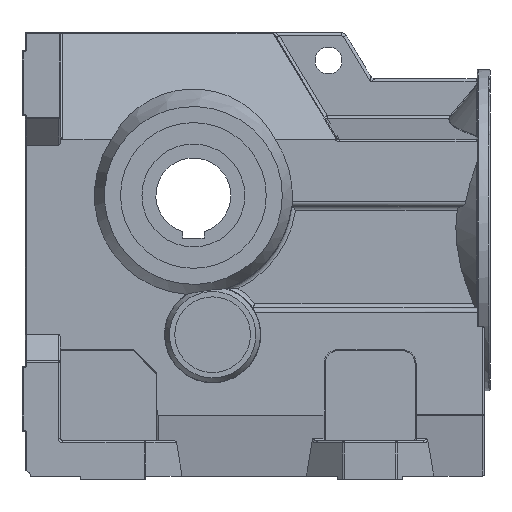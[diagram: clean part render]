
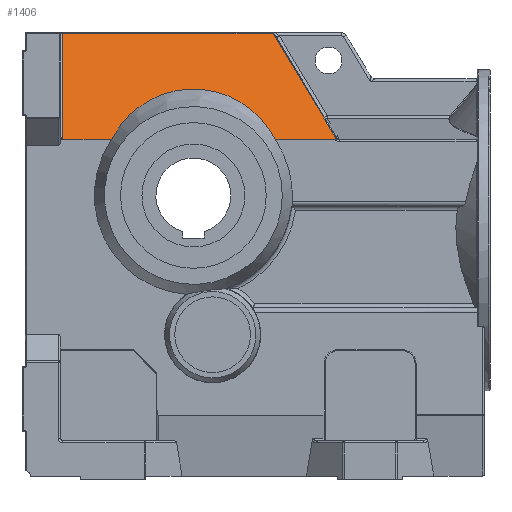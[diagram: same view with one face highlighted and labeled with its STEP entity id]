
A CAD part, front view. The second image highlights one B-rep face of the part: STEP entity #1406.
In plain terms, the highlighted planar face has unit normal (0, -0.928, 0.371).
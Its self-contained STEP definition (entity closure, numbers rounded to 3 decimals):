
#1188=CARTESIAN_POINT('',(77.488,-119.53,318.175));
#1189=VERTEX_POINT('',#1188);
#1190=CARTESIAN_POINT('',(76.79,-120.0,317.));
#1191=VERTEX_POINT('',#1190);
#1192=CARTESIAN_POINT('',(77.488,-119.53,318.175));
#1193=CARTESIAN_POINT('',(77.514,-119.597,318.007));
#1194=CARTESIAN_POINT('',(77.532,-119.658,317.856));
#1195=CARTESIAN_POINT('',(77.534,-119.76,317.601));
#1196=CARTESIAN_POINT('',(77.523,-119.804,317.489));
#1197=CARTESIAN_POINT('',(77.465,-119.871,317.321));
#1198=CARTESIAN_POINT('',(77.43,-119.896,317.259));
#1199=CARTESIAN_POINT('',(77.335,-119.938,317.155));
#1200=CARTESIAN_POINT('',(77.281,-119.954,317.116));
#1201=CARTESIAN_POINT('',(77.159,-119.978,317.056));
#1202=CARTESIAN_POINT('',(77.093,-119.986,317.035));
#1203=CARTESIAN_POINT('',(76.948,-119.997,317.006));
#1204=CARTESIAN_POINT('',(76.869,-120.0,317.0));
#1205=CARTESIAN_POINT('',(76.79,-120.0,317.0));
#1206=B_SPLINE_CURVE_WITH_KNOTS('',3,(#1192,#1193,#1194,#1195,#1196,#1197,#1198,#1199,#1200,#1201,#1202,#1203,#1204,#1205),.UNSPECIFIED.,.F.,.U.,(4,2,2,2,2,2,4),(0.687,0.797,0.895,0.963,1.024,1.084,1.153),.UNSPECIFIED.);
#1207=EDGE_CURVE('',#1189,#1191,#1206,.T.);
#1280=CARTESIAN_POINT('',(20.5,-120.0,317.0));
#1281=VERTEX_POINT('',#1280);
#1282=CARTESIAN_POINT('',(20.5,-120.0,317.0));
#1283=DIRECTION('',(1.0,0.0,0.0));
#1284=VECTOR('',#1283,56.29);
#1285=LINE('',#1282,#1284);
#1286=EDGE_CURVE('',#1281,#1191,#1285,.T.);
#1347=CARTESIAN_POINT('',(9.,-100.0,367.0));
#1348=DIRECTION('',(0.0,-0.928,0.371));
#1349=DIRECTION('',(0.0,-0.371,-0.928));
#1350=AXIS2_PLACEMENT_3D('',#1347,#1348,#1349);
#1351=PLANE('',#1350);
#1352=ORIENTED_EDGE('',*,*,#1207,.F.);
#1353=CARTESIAN_POINT('',(77.132,-119.384,318.541));
#1354=VERTEX_POINT('',#1353);
#1355=CARTESIAN_POINT('',(77.132,-119.384,318.541));
#1356=CARTESIAN_POINT('',(77.136,-119.385,318.537));
#1357=CARTESIAN_POINT('',(77.139,-119.387,318.533));
#1358=CARTESIAN_POINT('',(77.252,-119.435,318.412));
#1359=CARTESIAN_POINT('',(77.369,-119.484,318.291));
#1360=CARTESIAN_POINT('',(77.488,-119.53,318.175));
#1361=B_SPLINE_CURVE_WITH_KNOTS('',3,(#1355,#1356,#1357,#1358,#1359,#1360),.UNSPECIFIED.,.F.,.U.,(4,2,4),(-0.002,0.0,0.05),.UNSPECIFIED.);
#1362=EDGE_CURVE('',#1354,#1189,#1361,.T.);
#1363=ORIENTED_EDGE('',*,*,#1362,.F.);
#1364=CARTESIAN_POINT('',(18.434,-80.251,416.371));
#1365=VERTEX_POINT('',#1364);
#1366=CARTESIAN_POINT('',(18.434,-80.251,416.371));
#1367=DIRECTION('',(0.487,-0.324,-0.811));
#1368=VECTOR('',#1367,120.614);
#1369=LINE('',#1366,#1368);
#1370=EDGE_CURVE('',#1365,#1354,#1369,.T.);
#1371=ORIENTED_EDGE('',*,*,#1370,.F.);
#1372=CARTESIAN_POINT('',(-178.0,-80.251,416.371));
#1373=VERTEX_POINT('',#1372);
#1374=CARTESIAN_POINT('',(-178.0,-80.251,416.371));
#1375=DIRECTION('',(1.0,0.0,0.0));
#1376=VECTOR('',#1375,196.434);
#1377=LINE('',#1374,#1376);
#1378=EDGE_CURVE('',#1373,#1365,#1377,.T.);
#1379=ORIENTED_EDGE('',*,*,#1378,.F.);
#1380=CARTESIAN_POINT('',(-178.0,-120.0,317.0));
#1381=VERTEX_POINT('',#1380);
#1382=CARTESIAN_POINT('',(-178.0,-120.0,317.0));
#1383=DIRECTION('',(0.0,0.371,0.928));
#1384=VECTOR('',#1383,107.026);
#1385=LINE('',#1382,#1384);
#1386=EDGE_CURVE('',#1381,#1373,#1385,.T.);
#1387=ORIENTED_EDGE('',*,*,#1386,.F.);
#1388=CARTESIAN_POINT('',(-132.5,-120.0,317.0));
#1389=VERTEX_POINT('',#1388);
#1390=CARTESIAN_POINT('',(-178.0,-120.0,317.0));
#1391=DIRECTION('',(1.0,0.0,0.0));
#1392=VECTOR('',#1391,45.5);
#1393=LINE('',#1390,#1392);
#1394=EDGE_CURVE('',#1381,#1389,#1393,.T.);
#1395=ORIENTED_EDGE('',*,*,#1394,.T.);
#1396=CARTESIAN_POINT('',(-56.0,-135.747,277.632));
#1397=DIRECTION('',(0.,0.928,-0.371));
#1398=DIRECTION('',(0.,-0.371,-0.928));
#1399=AXIS2_PLACEMENT_3D('',#1396,#1397,#1398);
#1400=ELLIPSE('',#1399,93.453,85.844);
#1401=EDGE_CURVE('',#1389,#1281,#1400,.T.);
#1402=ORIENTED_EDGE('',*,*,#1401,.T.);
#1403=ORIENTED_EDGE('',*,*,#1286,.T.);
#1404=EDGE_LOOP('',(#1352,#1363,#1371,#1379,#1387,#1395,#1402,#1403));
#1405=FACE_OUTER_BOUND('',#1404,.T.);
#1406=ADVANCED_FACE('',(#1405),#1351,.T.);
